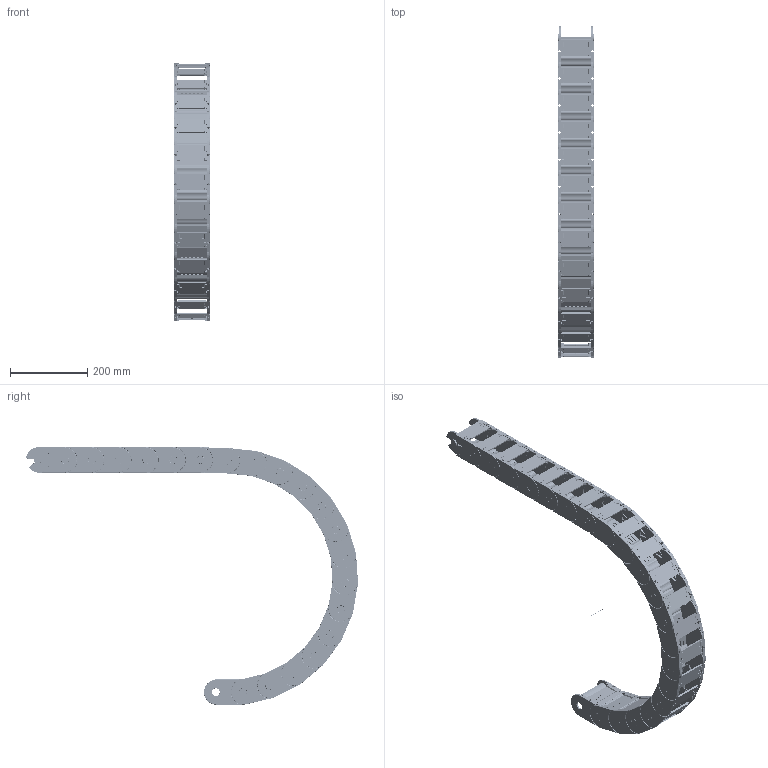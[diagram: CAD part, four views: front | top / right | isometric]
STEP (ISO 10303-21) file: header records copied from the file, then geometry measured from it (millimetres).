
FILE_DESCRIPTION((''),'2;1');
FILE_NAME('C:\Uebbing\PARAMETERKETTEN\KOLIBRI\Kol_65_095_1\KOLIBRI 65_095_1_R300.stp','2012-03-06T08:26:08',('Uebbing'),(''),'Autodesk Inventor 10','Autodesk Inventor 10','');
FILE_SCHEMA(('AUTOMOTIVE_DESIGN { 1 0 10303 214 1 1 1 1 }'));
Length unit declared in the file: millimetre
Products named in the file (5): KOLIBRI 65_095_1_PARAMETRISCH; Achse; Kol_65_095_1; Kol_65_095_1 Klappsteg; Kol_65_095_5 Lasche
Assembly tree (24 placements, depth 3):
  KOLIBRI 65_095_1_PARAMETRISCH
    Achse
    Kol_65_095_1  x21
      Kol_65_095_1 Klappsteg
      Kol_65_095_5 Lasche
Bounding box: 95 x 856.85 x 665 mm (x, y, z)
Volume: 1981128.8 mm3; surface area: 1244507.2 mm2
Topology: 43 solids, 43 shells, 10839 faces, 29656 edges, 19008 vertices
Faces by surface type: plane 4664, bspline 3885, cylinder 1912, torus 252, cone 84, sphere 42
Full cylindrical faces by diameter (mm): 1 x1, 2.514 x21, 4 x63, 4.414 x21, 6 x42, 20 x42
Entity records: 17540 total; most frequent: CARTESIAN_POINT 4703, ORIENTED_EDGE 2758, DIRECTION 2401, EDGE_CURVE 1379, VECTOR 1007, LINE 1007, VERTEX_POINT 896, AXIS2_PLACEMENT_3D 697
